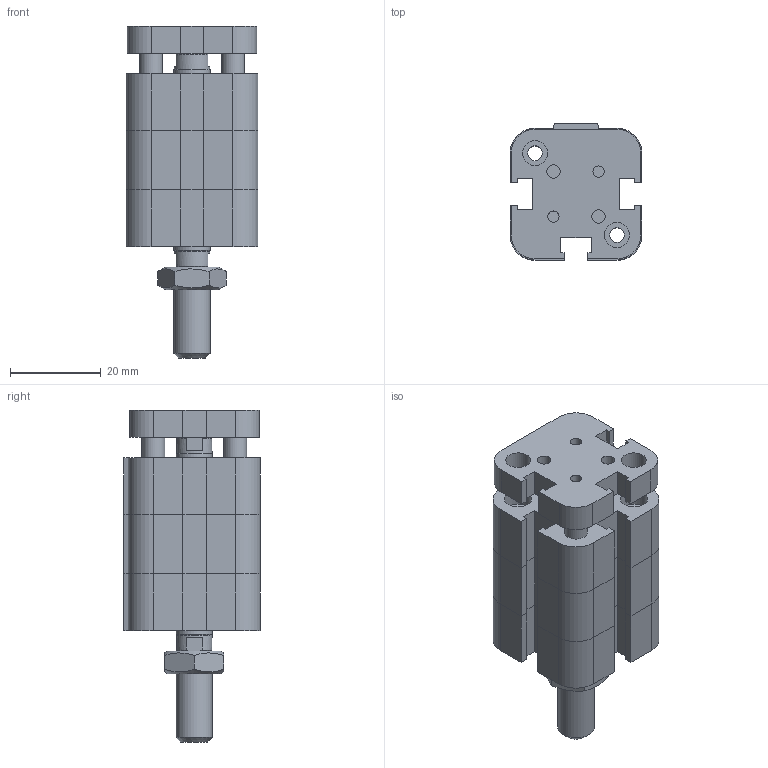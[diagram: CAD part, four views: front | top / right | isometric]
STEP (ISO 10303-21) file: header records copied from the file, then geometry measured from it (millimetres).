
FILE_DESCRIPTION((''),'2;1');
FILE_NAME('I:\Area Tecnica\Disegni\VARIE-3D\Componenti\EUROPE\15##_###_####_09_#\1581_16_0000_09_1.iam.stp','2009-04-20T15:42:24',(''),(''),'Autodesk Inventor 2009','Autodesk Inventor 2009','');
FILE_SCHEMA(('AUTOMOTIVE_DESIGN { 1 0 10303 214 1 1 1 1 }'));
Length unit declared in the file: millimetre
Products named in the file (4): 1581_16_0000_09_1; 1581_16_0000_08_1_C; 1561_16_0000_09_1_SA; DBM8
Assembly tree (3 placements, depth 2):
  1581_16_0000_09_1
    1581_16_0000_08_1_C
    1561_16_0000_09_1_SA
    DBM8
Bounding box: 29 x 30 x 73 mm (x, y, z)
Volume: 32184.3 mm3; surface area: 15248.5 mm2
Topology: 3 solids, 3 shells, 217 faces, 515 edges, 320 vertices
Faces by surface type: plane 144, bspline 40, cylinder 23, cone 10
Full cylindrical faces by diameter (mm): 5 x2, 6.5 x1, 7.8 x2, 8 x2
Entity records: 6420 total; most frequent: CARTESIAN_POINT 1488, ORIENTED_EDGE 926, DIRECTION 908, EDGE_CURVE 463, VECTOR 346, LINE 346, VERTEX_POINT 305, EDGE_LOOP 290
